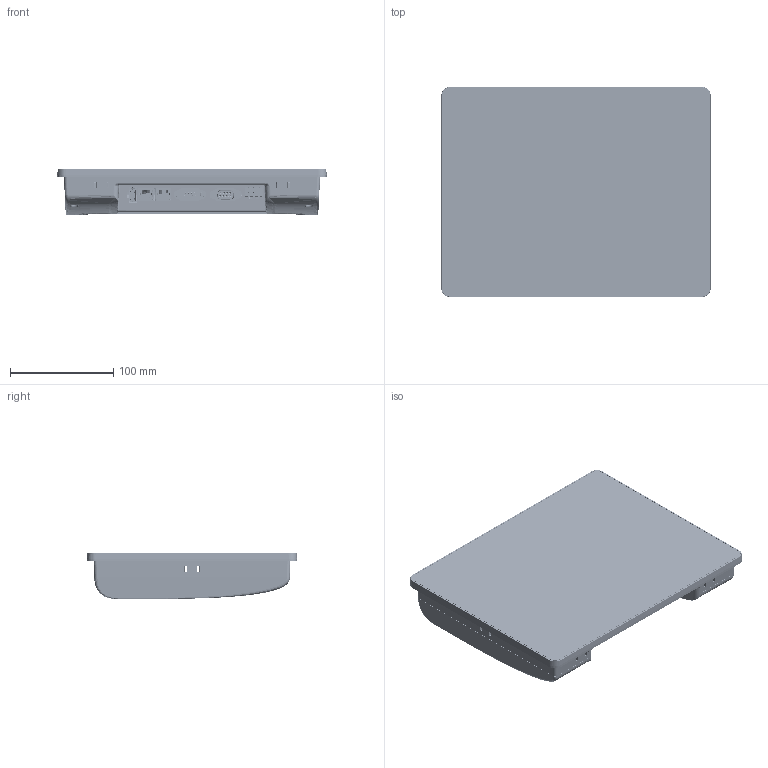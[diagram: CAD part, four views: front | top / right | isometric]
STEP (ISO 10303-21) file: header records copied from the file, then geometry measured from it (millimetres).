
FILE_DESCRIPTION (( 'STEP AP214' ), '1' );
FILE_NAME ('cMT3092X.STEP', '2023-10-24T09:44:24', ( '' ), ( '' ), 'SwSTEP 2.0', 'SolidWorks 2019', '' );
FILE_SCHEMA (( 'AUTOMOTIVE_DESIGN' ));
Length unit declared in the file: millimetre
Products named in the file (19): FEZ809010_141014; DN19S7201; User Library-Micro USB; FEF809010_170306; 5EHDRC-XXP; FEVA10500_160804; FS103012W_081003; FEBC90X10_190418; GV390XN00_532C; SN0092801; DN6110V01; SCJ315P00VS0B00G_140421; 3568A_15_V1.2 PCBA; WRJ5-88-1X1-FAAA; DN6818800; FEV252504; RZFCQ2000-141001; DN19P7200; cMT3092X
Assembly tree (23 placements, depth 3):
  cMT3092X
    FEF809010_170306
    GV390XN00_532C
    FEZ809010_141014
    FEBC90X10_190418
    FEVA10500_160804
    3568A_15_V1.2 PCBA
      5EHDRC-XXP
      DN19P7200
      DN19S7201
      DN6110V01
      DN6818800  x2
      User Library-Micro USB
      SCJ315P00VS0B00G_140421
      RZFCQ2000-141001
      SN0092801
      WRJ5-88-1X1-FAAA  x2
    FEV252504
    FS103012W_081003  x4
Bounding box: 260.6 x 203.1 x 44.9 mm (x, y, z)
Volume: 325935.9 mm3; surface area: 432370.2 mm2
Topology: 39 solids, 129 shells, 7896 faces, 21881 edges, 14100 vertices
Faces by surface type: plane 3073, bspline 2506, cylinder 1762, cone 374, torus 152, sphere 29
Entity records: 299703 total; most frequent: CARTESIAN_POINT 129178, ORIENTED_EDGE 37215, DIRECTION 27121, EDGE_CURVE 18747, VERTEX_POINT 12156, LINE 9977, VECTOR 9977, AXIS2_PLACEMENT_3D 8572
